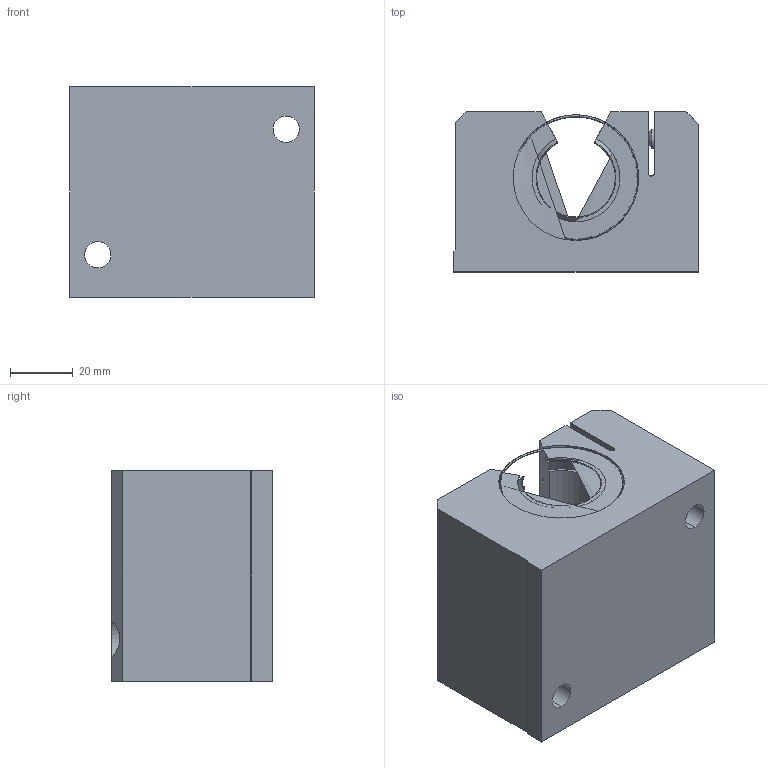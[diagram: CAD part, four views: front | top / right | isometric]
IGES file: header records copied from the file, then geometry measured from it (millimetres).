
Start section: 3D InterOp IGES (Version 21 0 1), Spatial Corp. Copyright (c) 1999-2007.
Global section: file name: SLS-25-OP.igs; native system: Spatial Corp.; preprocessor: 3D InterOp GENERIC/IGES 3.0; author: Noname; organization: Noname; date: 20220310.163652; units: millimetre
Bounding box: 78 x 51 x 67 mm (x, y, z)
Surface area: 37941.6 mm2 (no closed solid volume)
Topology: 0 solids, 0 shells, 144 faces, 790 edges, 778 vertices
Faces by surface type: revolution 97, extrusion 47
